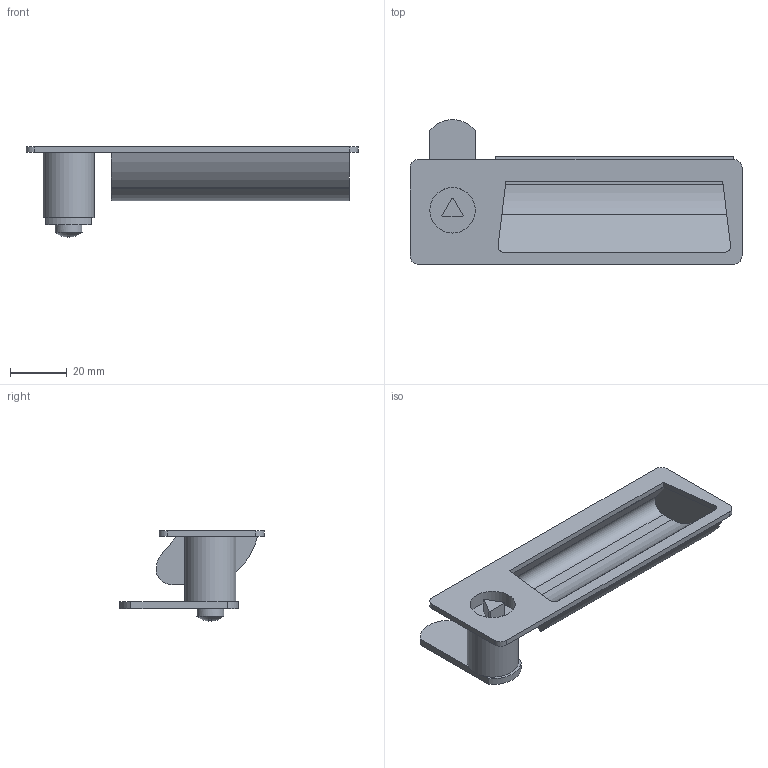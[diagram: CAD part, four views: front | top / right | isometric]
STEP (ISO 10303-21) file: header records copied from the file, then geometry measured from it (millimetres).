
FILE_DESCRIPTION( ( 'STEP AP203' ), '1' );
FILE_NAME( 'C:/Temp/Ganter_Step_05_03_2020/data/3_3/gn731_5/gn731_5_1/Latche with gripping tray GN 731.5-DK-0-32-1-SG (0-23).stp', '2020-03-12T11:49:15', ( 'License CC BY-ND 4.0' ), ( 'CADENAS' ), ' ', 'PARTsolutions', ' ' );
FILE_SCHEMA( ( 'CONFIG_CONTROL_DESIGN' ) );
Length unit declared in the file: millimetre
Products named in the file (3): Latche with gripping tray GN 731.5-DK-0-32-1-SG (0-23); _Latche with gripping tray GN 731.5-DK-0-32-1-SG (0)_1; _Latche with gripping tray GN 731.5-DK-0-32-1-SG (0-23)_2
Assembly tree (2 placements, depth 2):
  Latche with gripping tray GN 731.5-DK-0-32-1-SG (0-23)
    _Latche with gripping tray GN 731.5-DK-0-32-1-SG (0)_1
    _Latche with gripping tray GN 731.5-DK-0-32-1-SG (0-23)_2
Bounding box: 117 x 50.96 x 31.88 mm (x, y, z)
Volume: 23735.6 mm3; surface area: 19963.5 mm2
Topology: 2 solids, 2 shells, 87 faces, 221 edges, 144 vertices
Faces by surface type: plane 63, cylinder 23, sphere 1
Full cylindrical faces by diameter (mm): 9.5 x1, 16 x1, 18 x1
Entity records: 2687 total; most frequent: DIRECTION 461, CARTESIAN_POINT 445, ORIENTED_EDGE 428, EDGE_CURVE 214, AXIS2_PLACEMENT_3D 157, LINE 147, VECTOR 147, VERTEX_POINT 141
